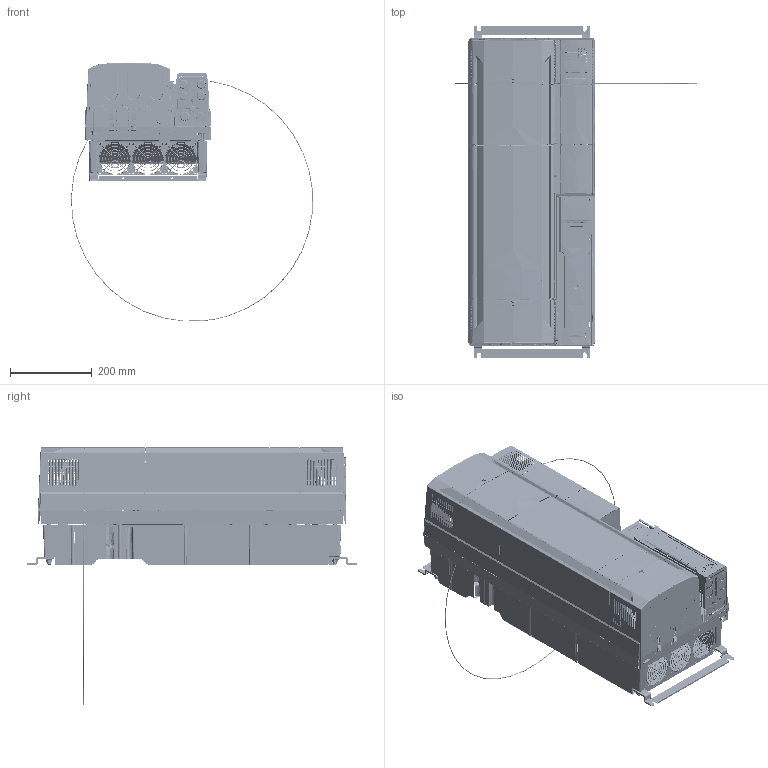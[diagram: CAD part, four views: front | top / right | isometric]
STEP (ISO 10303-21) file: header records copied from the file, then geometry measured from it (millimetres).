
FILE_DESCRIPTION((''),'2;1');
FILE_NAME('M400-SIMPLE_SW0001','2014-02-21T',('owenrh01'),(''),'PRO/ENGINEER BY PARAMETRIC TECHNOLOGY CORPORATION, 2011490','PRO/ENGINEER BY PARAMETRIC TECHNOLOGY CORPORATION, 2011490','');
FILE_SCHEMA(('CONFIG_CONTROL_DESIGN'));
Products named in the file (1): M400-SIMPLE_SW0001
Bounding box: 591.72 x 811.61 x 632.44 mm (x, y, z)
Surface area: 2446271.8 mm2 (no closed solid volume)
Topology: 0 solids, 0 shells, 3207 faces, 28363 edges, 28248 vertices
Faces by surface type: bspline 3081, torus 117, sphere 9
Entity records: 477648 total; most frequent: CARTESIAN_POINT 216835, DIRECTION 39595, TRIMMED_CURVE 36459, VECTOR 33575, LINE 33575, DEFINITIONAL_REPRESENTATION 28134, PCURVE 28134, COMPOSITE_CURVE_SEGMENT 28134
